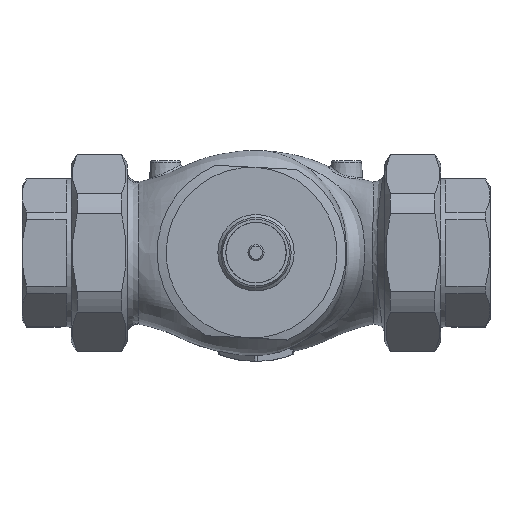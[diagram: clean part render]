
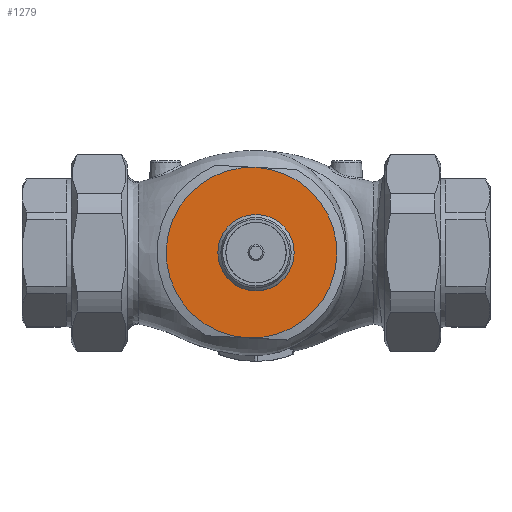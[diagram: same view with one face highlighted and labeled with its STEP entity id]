
A CAD part, top view. The second image highlights one B-rep face of the part: STEP entity #1279.
In plain terms, the highlighted planar face has unit normal (0, 0, 1).
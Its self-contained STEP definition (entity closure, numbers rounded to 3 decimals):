
#804=PLANE('',#9609);
#1044=FACE_BOUND('',#2627,.T.);
#1045=FACE_BOUND('',#2628,.T.);
#1279=ADVANCED_FACE('',(#1044,#1045),#804,.T.);
#2627=EDGE_LOOP('',(#4169));
#2628=EDGE_LOOP('',(#4170,#4171));
#3249=CIRCLE('',#9606,19.);
#3250=CIRCLE('',#9607,42.5);
#3251=CIRCLE('',#9608,42.5);
#4169=ORIENTED_EDGE('',*,*,#7487,.T.);
#4170=ORIENTED_EDGE('',*,*,#7488,.T.);
#4171=ORIENTED_EDGE('',*,*,#7489,.T.);
#6543=VERTEX_POINT('',#22899);
#6548=VERTEX_POINT('',#22923);
#6551=VERTEX_POINT('',#22941);
#7487=EDGE_CURVE('',#6551,#6551,#3249,.T.);
#7488=EDGE_CURVE('',#6548,#6543,#3250,.T.);
#7489=EDGE_CURVE('',#6543,#6548,#3251,.T.);
#9606=AXIS2_PLACEMENT_3D('',#22940,#10923,#10924);
#9607=AXIS2_PLACEMENT_3D('',#22942,#10925,#10926);
#9608=AXIS2_PLACEMENT_3D('',#22943,#10927,#10928);
#9609=AXIS2_PLACEMENT_3D('',#22944,#10929,#10930);
#10923=DIRECTION('',(0.,0.,-1.));
#10924=DIRECTION('',(0.,1.,0.));
#10925=DIRECTION('',(0.,0.,1.));
#10926=DIRECTION('',(-0.999,0.052,0.));
#10927=DIRECTION('',(0.,0.,1.));
#10928=DIRECTION('',(-0.999,0.052,0.));
#10929=DIRECTION('',(0.,0.,1.));
#10930=DIRECTION('',(-0.999,0.052,0.));
#22899=CARTESIAN_POINT('',(-4.451,-42.383,67.));
#22923=CARTESIAN_POINT('',(0.,42.5,67.));
#22940=CARTESIAN_POINT('',(0.,0.,67.));
#22941=CARTESIAN_POINT('',(0.,19.,67.));
#22942=CARTESIAN_POINT('',(-2.226,0.058,67.));
#22943=CARTESIAN_POINT('',(-2.226,0.058,67.));
#22944=CARTESIAN_POINT('',(-32.684,1.656,67.));
